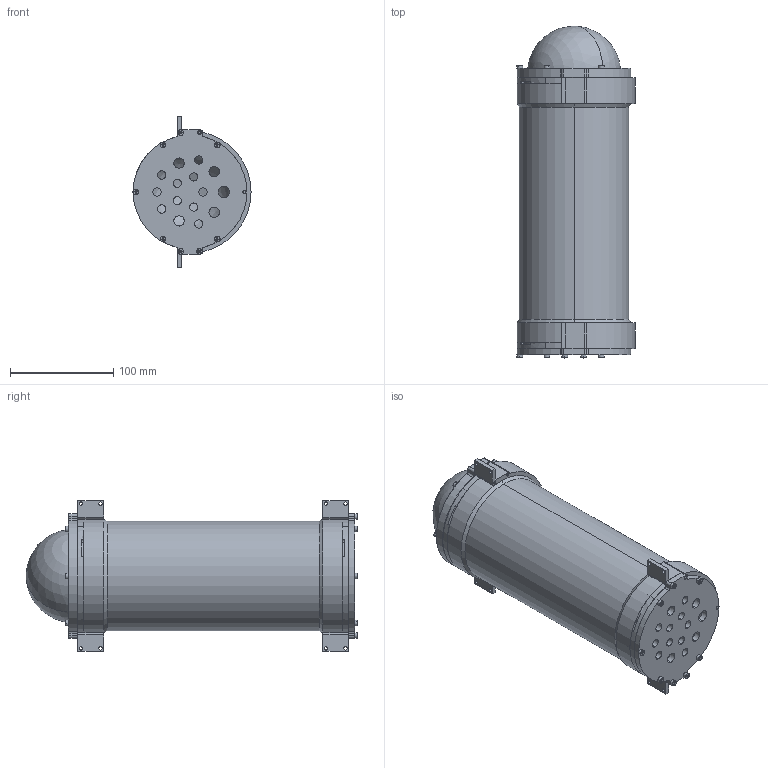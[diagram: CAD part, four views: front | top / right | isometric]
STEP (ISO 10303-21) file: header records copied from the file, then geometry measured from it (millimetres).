
FILE_DESCRIPTION (( 'STEP AP214' ), '1' );
FILE_NAME ('110萇赽組.STEP', '2023-07-12T08:02:08', ( '' ), ( '' ), 'SwSTEP 2.0', 'SolidWorks 2020', '' );
FILE_SCHEMA (( 'AUTOMOTIVE_DESIGN' ));
Length unit declared in the file: millimetre
Products named in the file (11): 110-15謂; 110圉⑩欶揤啣(1); 110籵蚚楊擘; 110臏磁踢組; socket head cap screw_iso_ISO 4762 M3 x 20 - 20N; 110萇赽組; socket head cap screw_iso_ISO 4762 M3 x 10 - 10N; 奪諶璃; socket head cap screw_iso_ISO 4762 M3 x 16 - 16N; 92X3.53密封圈; 110半球罩
Assembly tree (27 placements, depth 2):
  110萇赽組
    110圉⑩欶揤啣(1)
    110籵蚚楊擘  x2
    92X3.53密封圈  x6
    奪諶璃  x2
    110-15謂
    110半球罩
    socket head cap screw_iso_ISO 4762 M3 x 20 - 20N  x5
    socket head cap screw_iso_ISO 4762 M3 x 16 - 16N  x5
    socket head cap screw_iso_ISO 4762 M3 x 10 - 10N  x3
    110臏磁踢組
Bounding box: 114.25 x 321 x 146 mm (x, y, z)
Volume: 613725.9 mm3; surface area: 341572.7 mm2
Topology: 27 solids, 27 shells, 908 faces, 2122 edges, 1263 vertices
Faces by surface type: cylinder 346, plane 308, cone 138, torus 112, sphere 4
Entity records: 15123 total; most frequent: DIRECTION 2697, CARTESIAN_POINT 2284, ORIENTED_EDGE 2194, AXIS2_PLACEMENT_3D 1100, EDGE_CURVE 1097, VERTEX_POINT 687, EDGE_LOOP 608, CIRCLE 600
